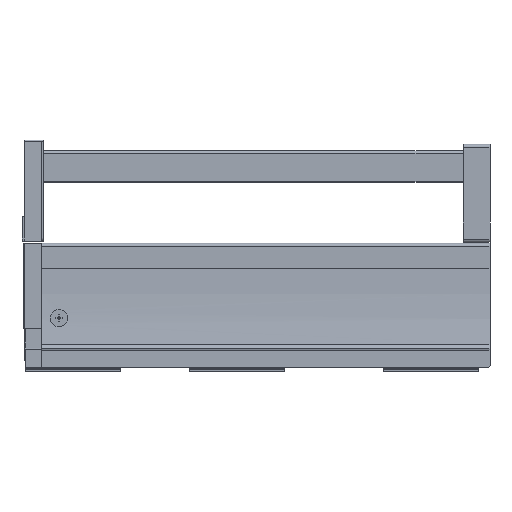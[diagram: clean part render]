
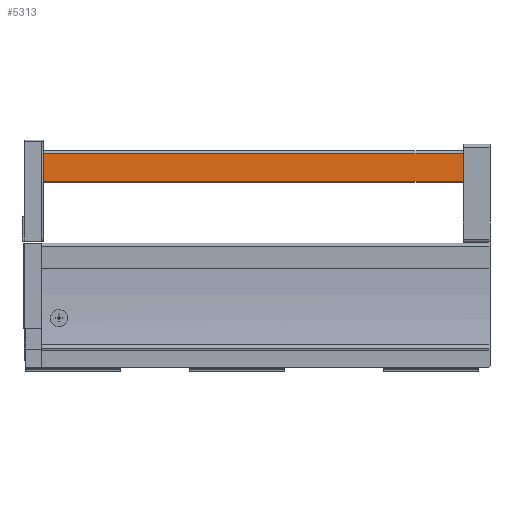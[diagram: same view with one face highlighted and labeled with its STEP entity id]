
A CAD part, left-side view. The second image highlights one B-rep face of the part: STEP entity #5313.
In plain terms, the highlighted planar face has unit normal (-1, 0, 0).
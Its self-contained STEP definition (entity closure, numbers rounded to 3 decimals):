
#69 = DIRECTION ( 'NONE',  ( 0., -1., 0. ) ) ;
#76 = CARTESIAN_POINT ( 'NONE',  ( -17.15, 538.5, 166.098 ) ) ;
#260 = EDGE_CURVE ( 'NONE', #5857, #5829, #1643, .T. ) ;
#366 = EDGE_CURVE ( 'NONE', #5829, #5830, #6020, .T. ) ;
#543 = EDGE_CURVE ( 'NONE', #5855, #5830, #6071, .T. ) ;
#703 = EDGE_CURVE ( 'NONE', #5855, #5857, #4732, .T. ) ;
#937 = CARTESIAN_POINT ( 'NONE',  ( -17.15, 538.5, 166.098 ) ) ;
#938 = PLANE ( 'NONE',  #4408 ) ;
#940 = DIRECTION ( 'NONE',  ( -1., 0., 0. ) ) ;
#941 = DIRECTION ( 'NONE',  ( 0., 0., -1. ) ) ;
#1430 = CARTESIAN_POINT ( 'NONE',  ( -17.15, 25.45, 166.098 ) ) ;
#1431 = CARTESIAN_POINT ( 'NONE',  ( -17.15, 25.45, 140.048 ) ) ;
#1456 = CARTESIAN_POINT ( 'NONE',  ( -17.15, 422.25, 140.048 ) ) ;
#1458 = CARTESIAN_POINT ( 'NONE',  ( -17.15, 422.25, 166.098 ) ) ;
#1634 = VECTOR ( 'NONE', #69, 1000. ) ;
#1643 = LINE ( 'NONE', #76, #1634 ) ;
#1928 = ORIENTED_EDGE ( 'NONE', *, *, #703, .F. ) ;
#1929 = ORIENTED_EDGE ( 'NONE', *, *, #260, .F. ) ;
#1930 = ORIENTED_EDGE ( 'NONE', *, *, #366, .F. ) ;
#1931 = ORIENTED_EDGE ( 'NONE', *, *, #543, .T. ) ;
#2324 = EDGE_LOOP ( 'NONE', ( #1931, #1930, #1929, #1928 ) ) ;
#3332 = CARTESIAN_POINT ( 'NONE',  ( -17.15, 25.45, 166.098 ) ) ;
#3333 = DIRECTION ( 'NONE',  ( 0., 0., -1. ) ) ;
#3690 = CARTESIAN_POINT ( 'NONE',  ( -17.15, 538.5, 140.048 ) ) ;
#3704 = DIRECTION ( 'NONE',  ( 0., -1., 0. ) ) ;
#4033 = CARTESIAN_POINT ( 'NONE',  ( -17.15, 422.25, 166.098 ) ) ;
#4034 = DIRECTION ( 'NONE',  ( 0., 0., 1. ) ) ;
#4408 = AXIS2_PLACEMENT_3D ( 'NONE', #937, #940, #941 ) ;
#4732 = LINE ( 'NONE', #4033, #4733 ) ;
#4733 = VECTOR ( 'NONE', #4034, 1000. ) ;
#4935 = FACE_OUTER_BOUND ( 'NONE', #2324, .T. ) ;
#5313 = ADVANCED_FACE ( 'NONE', ( #4935 ), #938, .T. ) ;
#5374 = VECTOR ( 'NONE', #3704, 1000. ) ;
#5829 = VERTEX_POINT ( 'NONE', #1430 ) ;
#5830 = VERTEX_POINT ( 'NONE', #1431 ) ;
#5855 = VERTEX_POINT ( 'NONE', #1456 ) ;
#5857 = VERTEX_POINT ( 'NONE', #1458 ) ;
#6019 = VECTOR ( 'NONE', #3333, 1000. ) ;
#6020 = LINE ( 'NONE', #3332, #6019 ) ;
#6071 = LINE ( 'NONE', #3690, #5374 ) ;
